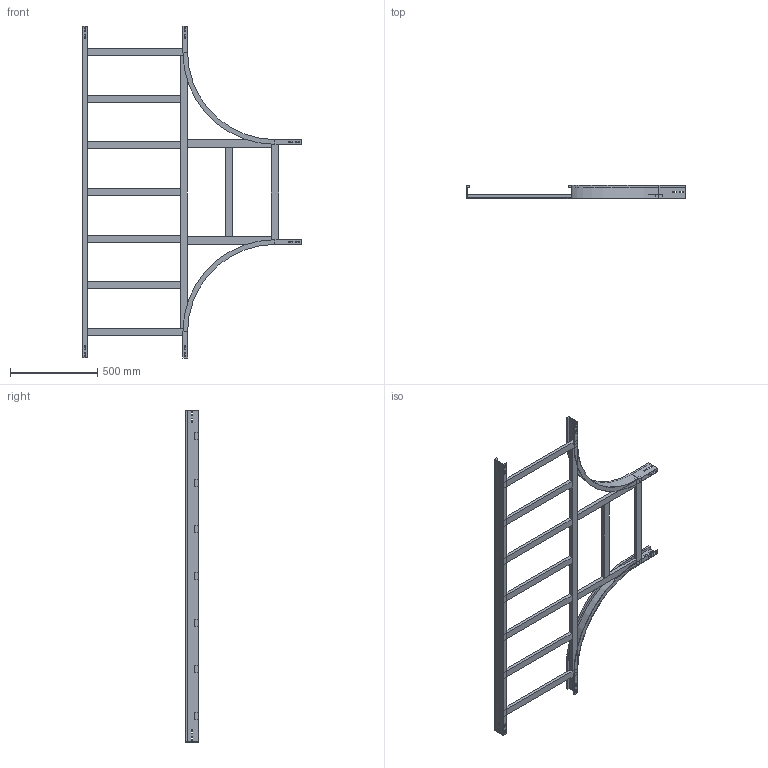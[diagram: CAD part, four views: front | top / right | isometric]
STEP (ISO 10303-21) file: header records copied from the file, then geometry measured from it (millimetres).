
FILE_DESCRIPTION (( 'STEP AP214' ), '1' );
FILE_NAME ('15B5C600.step', '2025-02-21T15:52:43', ( '' ), ( '' ), 'SwSTEP 2.0', 'SolidWorks 2023', '' );
FILE_SCHEMA (( 'AUTOMOTIVE_DESIGN' ));
Length unit declared in the file: millimetre
Products named in the file (8): TRAVERSINO_INTERMEDIO_R500+600; TRAVERSINO_VERT_R500; TRAVERSINO_COPPIA_600; TRAVERSINO_600; TRAVERSINO_LONG._R500+600; LONGH.RETT_H75_R500+600; 15B5C600; LONGH.INTERNO 90°_H75_R500
Assembly tree (15 placements, depth 2):
  15B5C600
    LONGH.INTERNO 90°_H75_R500  x2
    LONGH.RETT_H75_R500+600
    TRAVERSINO_600  x3
    TRAVERSINO_LONG._R500+600
    TRAVERSINO_INTERMEDIO_R500+600  x5
    TRAVERSINO_VERT_R500  x2
    TRAVERSINO_COPPIA_600
Bounding box: 1250 x 75 x 1900 mm (x, y, z)
Volume: 7755975.9 mm3; surface area: 1902442.5 mm2
Topology: 15 solids, 15 shells, 230 faces, 568 edges, 368 vertices
Faces by surface type: plane 222, cylinder 8
Entity records: 4217 total; most frequent: CARTESIAN_POINT 696, ORIENTED_EDGE 664, DIRECTION 636, EDGE_CURVE 332, LINE 324, VECTOR 324, VERTEX_POINT 216, EDGE_LOOP 162
